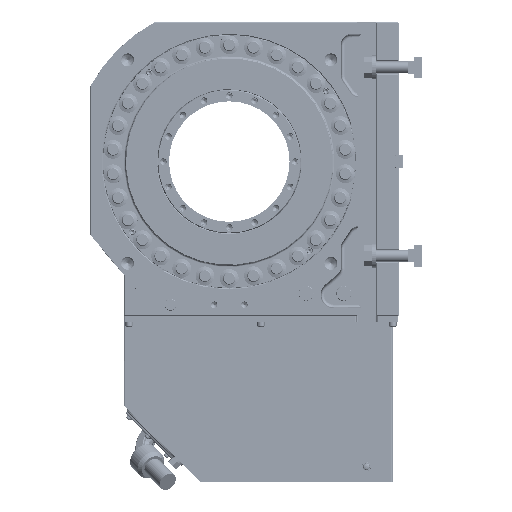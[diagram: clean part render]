
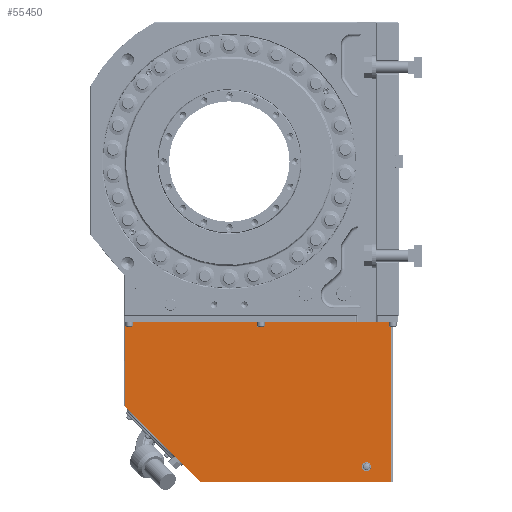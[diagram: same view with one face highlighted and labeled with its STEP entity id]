
A CAD part, left-side view. The second image highlights one B-rep face of the part: STEP entity #55450.
In plain terms, the highlighted planar face has unit normal (-1, 0, 0).
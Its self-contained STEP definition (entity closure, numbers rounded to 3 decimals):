
#1857 = VERTEX_POINT ( 'NONE', #115414 ) ;
#4917 = DIRECTION ( 'NONE',  ( 1., 0., 0. ) ) ;
#11182 = ORIENTED_EDGE ( 'NONE', *, *, #106215, .T. ) ;
#13687 = CARTESIAN_POINT ( 'NONE',  ( 13., 262.586, -219.414 ) ) ;
#19169 = CARTESIAN_POINT ( 'NONE',  ( 13., 9., -8. ) ) ;
#19402 = DIRECTION ( 'NONE',  ( 0., 0., -1. ) ) ;
#23046 = CARTESIAN_POINT ( 'NONE',  ( 13., 362., -120. ) ) ;
#26627 = CARTESIAN_POINT ( 'NONE',  ( 13., 261.172, -218. ) ) ;
#29185 = CARTESIAN_POINT ( 'NONE',  ( 13., 9., -8. ) ) ;
#30147 = CARTESIAN_POINT ( 'NONE',  ( 13., 9., -8. ) ) ;
#31161 = VERTEX_POINT ( 'NONE', #23046 ) ;
#38025 = LINE ( 'NONE', #51178, #150495 ) ;
#39765 = AXIS2_PLACEMENT_3D ( 'NONE', #112785, #4917, #88767 ) ;
#44095 = CARTESIAN_POINT ( 'NONE',  ( 13., 9., -220. ) ) ;
#47134 = AXIS2_PLACEMENT_3D ( 'NONE', #26627, #63869, #85650 ) ;
#49577 = CIRCLE ( 'NONE', #47134, 2. ) ;
#51178 = CARTESIAN_POINT ( 'NONE',  ( 13., 362., -8. ) ) ;
#52305 = CARTESIAN_POINT ( 'NONE',  ( 13., 42., -200. ) ) ;
#52835 = VERTEX_POINT ( 'NONE', #147866 ) ;
#53345 = LINE ( 'NONE', #19169, #98319 ) ;
#55450 = ADVANCED_FACE ( 'NONE', ( #100390, #64718 ), #99617, .F. ) ;
#57185 = VERTEX_POINT ( 'NONE', #29185 ) ;
#58669 = EDGE_LOOP ( 'NONE', ( #108664, #79923, #79074, #91370, #100126, #137383 ) ) ;
#60813 = VERTEX_POINT ( 'NONE', #141050 ) ;
#62139 = EDGE_CURVE ( 'NONE', #60813, #57185, #53345, .T. ) ;
#63869 = DIRECTION ( 'NONE',  ( -1., 0., 0. ) ) ;
#64566 = VERTEX_POINT ( 'NONE', #140048 ) ;
#64718 = FACE_OUTER_BOUND ( 'NONE', #58669, .T. ) ;
#65636 = EDGE_CURVE ( 'NONE', #57185, #68182, #148844, .T. ) ;
#66006 = VECTOR ( 'NONE', #93753, 1000. ) ;
#68182 = VERTEX_POINT ( 'NONE', #73228 ) ;
#69564 = AXIS2_PLACEMENT_3D ( 'NONE', #52305, #113533, #99621 ) ;
#73228 = CARTESIAN_POINT ( 'NONE',  ( 13., 9., -220. ) ) ;
#79074 = ORIENTED_EDGE ( 'NONE', *, *, #138855, .T. ) ;
#79563 = LINE ( 'NONE', #114432, #131518 ) ;
#79923 = ORIENTED_EDGE ( 'NONE', *, *, #127238, .T. ) ;
#85650 = DIRECTION ( 'NONE',  ( 0., 1., 0. ) ) ;
#86573 = ORIENTED_EDGE ( 'NONE', *, *, #95974, .T. ) ;
#87293 = EDGE_LOOP ( 'NONE', ( #86573, #11182 ) ) ;
#88767 = DIRECTION ( 'NONE',  ( 0., 1., 0. ) ) ;
#91370 = ORIENTED_EDGE ( 'NONE', *, *, #65636, .F. ) ;
#93430 = EDGE_CURVE ( 'NONE', #31161, #96595, #79563, .T. ) ;
#93753 = DIRECTION ( 'NONE',  ( 0., -1., 0. ) ) ;
#95974 = EDGE_CURVE ( 'NONE', #64566, #52835, #144102, .T. ) ;
#96595 = VERTEX_POINT ( 'NONE', #13687 ) ;
#98319 = VECTOR ( 'NONE', #100657, 1000. ) ;
#99617 = PLANE ( 'NONE',  #39765 ) ;
#99621 = DIRECTION ( 'NONE',  ( 0., 0., -1. ) ) ;
#100126 = ORIENTED_EDGE ( 'NONE', *, *, #62139, .F. ) ;
#100390 = FACE_BOUND ( 'NONE', #87293, .T. ) ;
#100657 = DIRECTION ( 'NONE',  ( 0., -1., 0. ) ) ;
#106215 = EDGE_CURVE ( 'NONE', #52835, #64566, #136420, .T. ) ;
#108392 = VECTOR ( 'NONE', #136422, 1000. ) ;
#108664 = ORIENTED_EDGE ( 'NONE', *, *, #93430, .T. ) ;
#110395 = CARTESIAN_POINT ( 'NONE',  ( 13., 42., -200. ) ) ;
#112785 = CARTESIAN_POINT ( 'NONE',  ( 13., 9., -8. ) ) ;
#113533 = DIRECTION ( 'NONE',  ( 1., 0., 0. ) ) ;
#114432 = CARTESIAN_POINT ( 'NONE',  ( 13., 364., -118. ) ) ;
#115414 = CARTESIAN_POINT ( 'NONE',  ( 13., 261.172, -220. ) ) ;
#126792 = AXIS2_PLACEMENT_3D ( 'NONE', #110395, #146089, #19402 ) ;
#127238 = EDGE_CURVE ( 'NONE', #96595, #1857, #49577, .T. ) ;
#129125 = DIRECTION ( 'NONE',  ( 0., -0.707, -0.707 ) ) ;
#131518 = VECTOR ( 'NONE', #129125, 1000. ) ;
#136420 = CIRCLE ( 'NONE', #69564, 5.75 ) ;
#136422 = DIRECTION ( 'NONE',  ( 0., 0., -1. ) ) ;
#137383 = ORIENTED_EDGE ( 'NONE', *, *, #140758, .T. ) ;
#138855 = EDGE_CURVE ( 'NONE', #1857, #68182, #152712, .T. ) ;
#140048 = CARTESIAN_POINT ( 'NONE',  ( 13., 42., -205.75 ) ) ;
#140758 = EDGE_CURVE ( 'NONE', #60813, #31161, #38025, .T. ) ;
#141050 = CARTESIAN_POINT ( 'NONE',  ( 13., 362., -8. ) ) ;
#144102 = CIRCLE ( 'NONE', #126792, 5.75 ) ;
#146089 = DIRECTION ( 'NONE',  ( 1., 0., 0. ) ) ;
#146598 = DIRECTION ( 'NONE',  ( 0., 0., -1. ) ) ;
#147866 = CARTESIAN_POINT ( 'NONE',  ( 13., 42., -194.25 ) ) ;
#148844 = LINE ( 'NONE', #30147, #108392 ) ;
#150495 = VECTOR ( 'NONE', #146598, 1000. ) ;
#152712 = LINE ( 'NONE', #44095, #66006 ) ;
